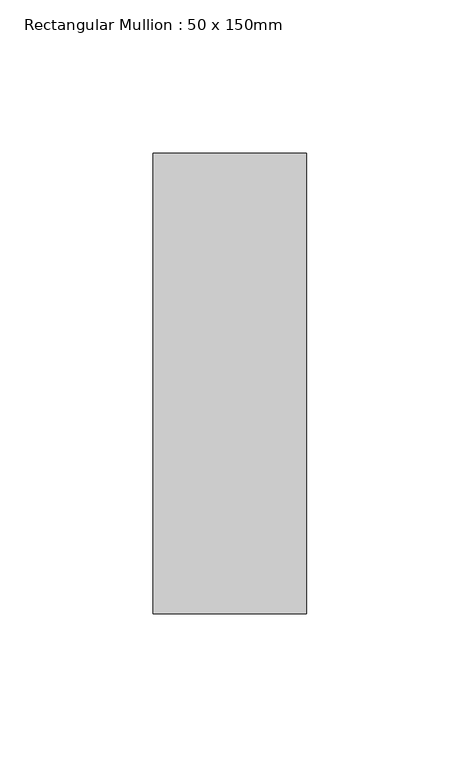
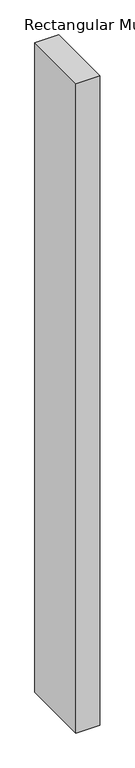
"""IFC4 building model written with IfcOpenShell, lengths in millimetres: member geometry, Rectangular Mullion : 50 x 150mm."""

from ifc_helpers import new_model, si_unit, frame, origin, place, context, project, spatial, polyline, outline, extrude, source, transform, mapped, element, save


def rectangular_mullion_50_x_150mm_3e65a84e(model_context):
    return source(origin(), model_context, "Body", "SweptSolid", [
        extrude(outline(polyline([(0.0, 75.0), (0.0, -75.0), (-50.0, -75.0), (-50.0, 75.0), (0.0, 75.0)])), frame((0.0, 0.0, -1449.0000002), z_axis=(0.0, 0.0, 1.0), x_axis=(1.0, 0.0, 0.0)), (0.0, 0.0, 1.0), 1449.0000002),
    ])


if __name__ == "__main__":
    model = new_model("IFC4")
    model_context = context("Model", 3, world=origin())
    ifc_project = project(units=[si_unit("LENGTHUNIT", "METRE", prefix="MILLI")], contexts=[model_context])
    site = spatial("IfcSite", under=ifc_project)
    building = spatial("IfcBuilding", under=site)
    placement = place(None, origin())
    rectangular_mullion_50_x_150mm_shape = rectangular_mullion_50_x_150mm_3e65a84e(model_context)
    element("IfcMember", 1, ObjectType="Rectangular Mullion : 50 x 150mm", at=placement, inside=building, context=model_context, shape_type="MappedRepresentation", body=[
        mapped(rectangular_mullion_50_x_150mm_shape, transform((0.0, 0.0, 0.0), x_axis=(1.0, 0.0, 0.0), y_axis=(0.0, 1.0, 0.0), z_axis=(0.0, 0.0, 1.0))),
    ])
    save(model, "model.ifc")
